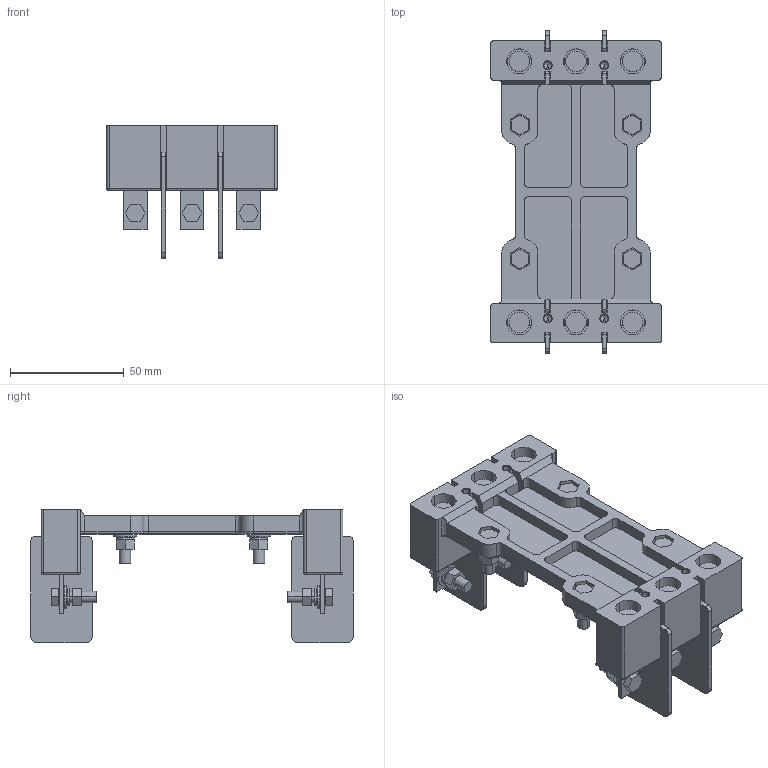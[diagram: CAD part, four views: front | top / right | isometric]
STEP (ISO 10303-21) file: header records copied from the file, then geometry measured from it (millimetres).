
FILE_DESCRIPTION (( 'STEP AP214' ), '1' );
FILE_NAME ('TGM1N-TDM-63-125.STEP', '2025-12-29T07:59:06', ( '' ), ( '' ), 'SwSTEP 2.0', 'SolidWorks 2024', '' );
FILE_SCHEMA (( 'AUTOMOTIVE_DESIGN' ));
Length unit declared in the file: millimetre
Products named in the file (53): midi3B10D8FCj3b2_50.stp; midi3B10D8FCj3b2_11.stp; midi3B10D8FCj3b2_9.stp; midi3B10D8FCj3b2_44.stp; midi3B10D8FCj3b2_42.stp; TGM1N-TDM-63-125; midi3B10D8FCj3b2_28.stp; midi3B10D8FCj3b2_26.stp; midi3B10D8FCj3b2_4.stp; midi3B10D8FCj3b2_25.stp; midi3B10D8FCj3b2_8.stp; midi3B10D8FCj3b2_1.stp; midi3B10D8FCj3b2_7.stp; midi3B10D8FCj3b2_40.stp; midi3B10D8FCj3b2_38.stp; midi3B10D8FCj3b2_41.stp; midi3B10D8FCj3b2_16.stp; TGM1N-TDM-63-125.stp; midi3B10D8FCj3b2_12.stp; midi3B10D8FCj3b2_47.stp; midi3B10D8FCj3b2_2.stp; midi3B10D8FCj3b2_33.stp; midi3B10D8FCj3b2_30.stp; midi3B10D8FCj3b2_43.stp; midi3B10D8FCj3b2_14.stp; midi3B10D8FCj3b2_31.stp; midi3B10D8FCj3b2_21.stp; midi3B10D8FCj3b2_46.stp; midi3B10D8FCj3b2_20.stp; midi3B10D8FCj3b2_22.stp; midi3B10D8FCj3b2_10.stp; midi3B10D8FCj3b2_51.stp; midi3B10D8FCj3b2_3.stp; midi3B10D8FCj3b2_32.stp; midi3B10D8FCj3b2_39.stp; midi3B10D8FCj3b2_13.stp; midi3B10D8FCj3b2_35.stp; midi3B10D8FCj3b2_6.stp; midi3B10D8FCj3b2_37.stp; midi3B10D8FCj3b2_19.stp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
Assembly tree (52 placements, depth 3):
  TGM1N-TDM-63-125
    TGM1N-TDM-63-125.stp
      midi3B10D8FCj3b2_1.stp
      midi3B10D8FCj3b2_2.stp
      midi3B10D8FCj3b2_3.stp
      midi3B10D8FCj3b2_4.stp
      midi3B10D8FCj3b2_5.stp
      midi3B10D8FCj3b2_6.stp
      midi3B10D8FCj3b2_7.stp
      midi3B10D8FCj3b2_8.stp
      midi3B10D8FCj3b2_9.stp
      midi3B10D8FCj3b2_10.stp
      midi3B10D8FCj3b2_11.stp
      midi3B10D8FCj3b2_12.stp
      midi3B10D8FCj3b2_13.stp
      midi3B10D8FCj3b2_14.stp
      midi3B10D8FCj3b2_15.stp
      midi3B10D8FCj3b2_16.stp
      midi3B10D8FCj3b2_17.stp
      midi3B10D8FCj3b2_18.stp
      midi3B10D8FCj3b2_19.stp
      midi3B10D8FCj3b2_20.stp
      midi3B10D8FCj3b2_21.stp
      midi3B10D8FCj3b2_22.stp
      midi3B10D8FCj3b2_23.stp
      midi3B10D8FCj3b2_24.stp
      midi3B10D8FCj3b2_25.stp
      midi3B10D8FCj3b2_26.stp
      midi3B10D8FCj3b2_27.stp
      midi3B10D8FCj3b2_28.stp
      midi3B10D8FCj3b2_29.stp
      midi3B10D8FCj3b2_30.stp
      midi3B10D8FCj3b2_31.stp
      midi3B10D8FCj3b2_32.stp
      midi3B10D8FCj3b2_33.stp
      midi3B10D8FCj3b2_34.stp
      midi3B10D8FCj3b2_35.stp
      midi3B10D8FCj3b2_36.stp
      midi3B10D8FCj3b2_37.stp
      midi3B10D8FCj3b2_38.stp
      midi3B10D8FCj3b2_39.stp
      midi3B10D8FCj3b2_40.stp
      midi3B10D8FCj3b2_41.stp
      midi3B10D8FCj3b2_42.stp
      midi3B10D8FCj3b2_43.stp
      midi3B10D8FCj3b2_44.stp
      midi3B10D8FCj3b2_45.stp
      midi3B10D8FCj3b2_46.stp
      midi3B10D8FCj3b2_47.stp
      midi3B10D8FCj3b2_48.stp
      midi3B10D8FCj3b2_49.stp
      midi3B10D8FCj3b2_50.stp
      midi3B10D8FCj3b2_51.stp
Bounding box: 75 x 142 x 59 mm (x, y, z)
Volume: 113669.1 mm3; surface area: 66331.2 mm2
Topology: 51 solids, 51 shells, 808 faces, 1992 edges, 1280 vertices
Faces by surface type: plane 504, cylinder 268, cone 16, torus 12, sphere 8
Entity records: 25675 total; most frequent: DIRECTION 4312, CARTESIAN_POINT 4184, ORIENTED_EDGE 3952, EDGE_CURVE 1976, AXIS2_PLACEMENT_3D 1480, LINE 1352, VECTOR 1352, VERTEX_POINT 1280
